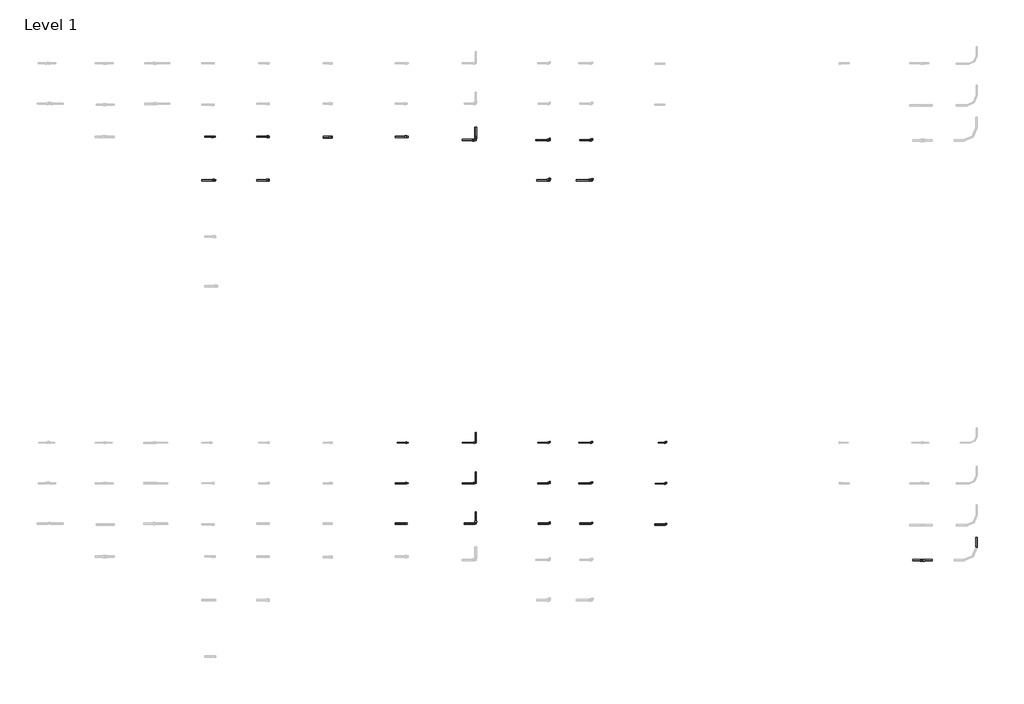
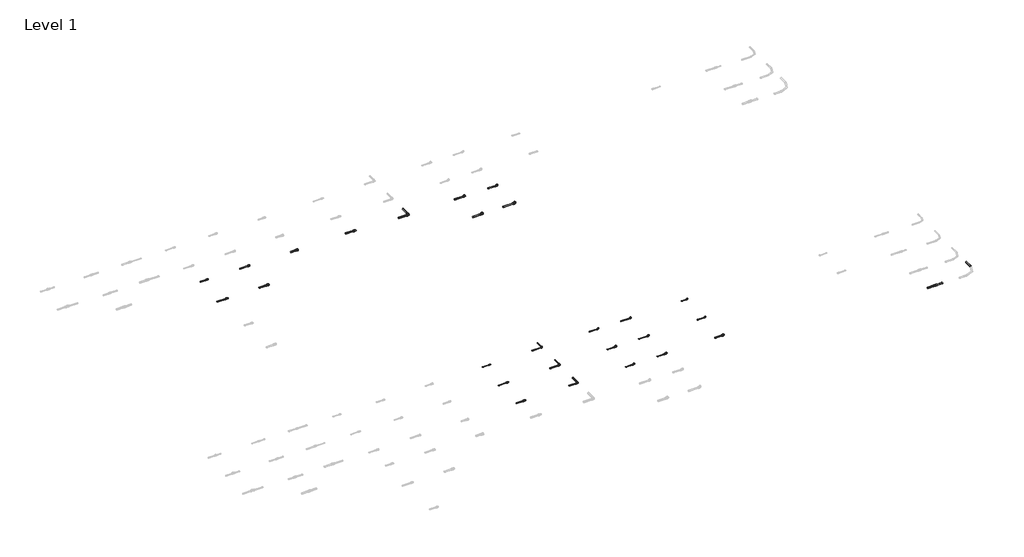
# One storey, part 9 of 16: 33 pipe segments, 28 pipe fittings.
"""IFC4 building model written with IfcOpenShell, lengths in millimetres."""

from ifc_helpers import new_model, si_unit, point, frame, frame_2d, origin, place, context, project, spatial, circle_curve, trimmed, segment, composite_curve, outline, extrude, transform, mapped, element, save
from components import pipe_fitting_5ed0d7cb, pipe_fitting_a2ce5f58, pipe_fitting_24cae873, pipe_fitting_792dd94b, pipe_fitting_a5f7744a, pipe_fitting_eea56ca5, pipe_fitting_715ab4bf, pipe_fitting_d7e847e2, pipe_fitting_2fdc1963, pipe_fitting_cb24982a, pipe_fitting_3031d961, pipe_fitting_5b5ff5cf, pipe_fitting_05bb6e73, pipe_fitting_d3274886, pipe_fitting_5bb2cb98, pipe_fitting_792aeb1b, pipe_fitting_2cdc80e6, pipe_fitting_a8fbe6ac, pipe_fitting_fe659845, pipe_fitting_164b9098, pipe_fitting_15655edc, pipe_fitting_beb2161e, pipe_fitting_76e4ea32, pipe_fitting_18fcccac, pipe_fitting_1e296f3b

model = new_model("IFC4")

# Units and contexts
model_context = context("Model", 3, world=origin())
ifc_project = project(units=[si_unit("LENGTHUNIT", "METRE", prefix="MILLI")], contexts=[model_context])

# Site, building, storey
site = spatial("IfcSite", under=ifc_project)
building = spatial("IfcBuilding", under=site)
storey = spatial("IfcBuildingStorey", under=building, Name="Level 1", Elevation=0.0)

# Pipe fittings
placement = place(None, origin())
pipe_fitting_shape = pipe_fitting_5ed0d7cb(model_context)
element("IfcPipeFitting", 1, ObjectType="FASTLOC_Adapter_RX+, with external thread : FSL A C external EX+ DE", at=placement, inside=storey, context=model_context, shape_type="MappedRepresentation", body=[
    mapped(pipe_fitting_shape, transform((37498.2332092, -239.0537829, 0.0), x_axis=(1.0, 0.0, 0.0), y_axis=(0.0, 1.0, 0.0), z_axis=(0.0, 0.0, 1.0))),
])
pipe_fitting_2_shape = pipe_fitting_a2ce5f58(model_context)
element("IfcPipeFitting", 2, ObjectType="FASTLOC_Adapter_RX+, with external thread : FSL A C external EX+ DE", at=placement, inside=storey, context=model_context, shape_type="MappedRepresentation", body=[
    mapped(pipe_fitting_2_shape, transform((37510.8952889, -1099.407392, 0.0), x_axis=(1.0, 0.0, 0.0), y_axis=(0.0, 1.0, 0.0), z_axis=(0.0, 0.0, 1.0))),
])
pipe_fitting_3_shape = pipe_fitting_24cae873(model_context)
element("IfcPipeFitting", 3, ObjectType="FASTLOC_Corner EX+ : FSL C EX+ DE", at=placement, inside=storey, context=model_context, shape_type="MappedRepresentation", body=[
    mapped(pipe_fitting_3_shape, transform((42675.3824015, -304.9640428, 0.0), x_axis=(1.0, 0.0, 0.0), y_axis=(0.0, 1.0, 0.0), z_axis=(0.0, 0.0, 1.0))),
])
pipe_fitting_4_shape = pipe_fitting_792dd94b(model_context)
element("IfcPipeFitting", 4, ObjectType="FASTLOC_Corner EX+ : FSL C EX+ AT", at=placement, inside=storey, context=model_context, shape_type="MappedRepresentation", body=[
    mapped(pipe_fitting_4_shape, transform((42675.3824015, -7087.6479967, 0.0), x_axis=(1.0, 0.0, 0.0), y_axis=(0.0, 1.0, 0.0), z_axis=(0.0, 0.0, 1.0))),
])
pipe_fitting_5_shape = pipe_fitting_a5f7744a(model_context)
element("IfcPipeFitting", 5, ObjectType="FASTLOC_Corner EX+ : FSL C EX+ AT", at=placement, inside=storey, context=model_context, shape_type="MappedRepresentation", body=[
    mapped(pipe_fitting_5_shape, transform((42675.3824015, -7887.6479967, 0.0), x_axis=(1.0, 0.0, 0.0), y_axis=(0.0, 1.0, 0.0), z_axis=(0.0, 0.0, 1.0))),
])
pipe_fitting_6_shape = pipe_fitting_eea56ca5(model_context)
element("IfcPipeFitting", 6, ObjectType="FASTLOC_Elbow with female thread EX+ : FSL A internal DE", at=placement, inside=storey, context=model_context, shape_type="MappedRepresentation", body=[
    mapped(pipe_fitting_6_shape, transform((44973.8113057, -304.9640428, 0.0), x_axis=(1.0, 0.0, 0.0), y_axis=(0.0, 1.0, 0.0), z_axis=(0.0, 0.0, 1.0))),
])
pipe_fitting_7_shape = pipe_fitting_715ab4bf(model_context)
element("IfcPipeFitting", 7, ObjectType="FASTLOC_Elbow with female thread EX+ : FSL A internal DE", at=placement, inside=storey, context=model_context, shape_type="MappedRepresentation", body=[
    mapped(pipe_fitting_7_shape, transform((44973.8113057, -1099.407392, 0.0), x_axis=(1.0, 0.0, 0.0), y_axis=(0.0, 1.0, 0.0), z_axis=(0.0, 0.0, 1.0))),
])
pipe_fitting_8_shape = pipe_fitting_d7e847e2(model_context)
element("IfcPipeFitting", 8, ObjectType="FASTLOC_Elbow with female thread EX+ : FSL A internal AT", at=placement, inside=storey, context=model_context, shape_type="MappedRepresentation", body=[
    mapped(pipe_fitting_8_shape, transform((44973.8113057, -7087.6479967, 0.0), x_axis=(1.0, 0.0, 0.0), y_axis=(0.0, 1.0, 0.0), z_axis=(0.0, 0.0, 1.0))),
])
pipe_fitting_9_shape = pipe_fitting_2fdc1963(model_context)
element("IfcPipeFitting", 9, ObjectType="FASTLOC_Elbow with female thread EX+ : FSL A internal AT", at=placement, inside=storey, context=model_context, shape_type="MappedRepresentation", body=[
    mapped(pipe_fitting_9_shape, transform((44973.8113057, -7887.6479967, 0.0), x_axis=(1.0, 0.0, 0.0), y_axis=(0.0, 1.0, 0.0), z_axis=(0.0, 0.0, 1.0))),
])
element("IfcPipeFitting", 10, ObjectType="FASTLOC_Elbow with female thread EX+ : FSL A internal AT", at=placement, inside=storey, context=model_context, shape_type="MappedRepresentation", body=[
    mapped(pipe_fitting_6_shape, transform((46435.3824015, -7906.354246, 0.0), x_axis=(1.0, 0.0, 0.0), y_axis=(0.0, 1.0, 0.0), z_axis=(0.0, 0.0, 1.0))),
])
pipe_fitting_10_shape = pipe_fitting_cb24982a(model_context)
element("IfcPipeFitting", 11, ObjectType="FASTLOC_Elbow with male thread EX+ : FSL A internal DE", at=placement, inside=storey, context=model_context, shape_type="MappedRepresentation", body=[
    mapped(pipe_fitting_10_shape, transform((44135.3824015, -304.9640428, 0.0), x_axis=(1.0, 0.0, 0.0), y_axis=(0.0, 1.0, 0.0), z_axis=(0.0, 0.0, 1.0))),
])
pipe_fitting_11_shape = pipe_fitting_3031d961(model_context)
element("IfcPipeFitting", 12, ObjectType="FASTLOC_Elbow with male thread EX+ : FSL A internal DE", at=placement, inside=storey, context=model_context, shape_type="MappedRepresentation", body=[
    mapped(pipe_fitting_11_shape, transform((44135.3824015, -1099.407392, 0.0), x_axis=(1.0, 0.0, 0.0), y_axis=(0.0, 1.0, 0.0), z_axis=(0.0, 0.0, 1.0))),
])
pipe_fitting_12_shape = pipe_fitting_5b5ff5cf(model_context)
element("IfcPipeFitting", 13, ObjectType="FASTLOC_Elbow with male thread EX+ : FSL A internal AT", at=placement, inside=storey, context=model_context, shape_type="MappedRepresentation", body=[
    mapped(pipe_fitting_12_shape, transform((44135.3824015, -6287.6479967, 0.0), x_axis=(1.0, 0.0, 0.0), y_axis=(0.0, 1.0, 0.0), z_axis=(0.0, 0.0, 1.0))),
])
pipe_fitting_13_shape = pipe_fitting_05bb6e73(model_context)
element("IfcPipeFitting", 14, ObjectType="FASTLOC_Elbow with male thread EX+ : FSL A internal AT", at=placement, inside=storey, context=model_context, shape_type="MappedRepresentation", body=[
    mapped(pipe_fitting_13_shape, transform((44135.3824015, -7887.6479967, 0.0), x_axis=(1.0, 0.0, 0.0), y_axis=(0.0, 1.0, 0.0), z_axis=(0.0, 0.0, 1.0))),
])
pipe_fitting_14_shape = pipe_fitting_d3274886(model_context)
element("IfcPipeFitting", 15, ObjectType="FASTLOC_Elbow with male thread EX+ : FSL A internal AT", at=placement, inside=storey, context=model_context, shape_type="MappedRepresentation", body=[
    mapped(pipe_fitting_14_shape, transform((44135.3824015, -7087.6479967, 0.0), x_axis=(1.0, 0.0, 0.0), y_axis=(0.0, 1.0, 0.0), z_axis=(0.0, 0.0, 1.0))),
])
pipe_fitting_15_shape = pipe_fitting_5bb2cb98(model_context)
element("IfcPipeFitting", 16, ObjectType="FASTLOC_Elbow with female thread EX+ : FSL A internal AT", at=placement, inside=storey, context=model_context, shape_type="MappedRepresentation", body=[
    mapped(pipe_fitting_15_shape, transform((44973.8113057, -6287.6479967, 0.0), x_axis=(1.0, 0.0, 0.0), y_axis=(0.0, 1.0, 0.0), z_axis=(0.0, 0.0, 1.0))),
])
element("IfcPipeFitting", 17, ObjectType="FASTLOC_Elbow with female thread EX+ : FSL A internal AT", at=placement, inside=storey, context=model_context, shape_type="MappedRepresentation", body=[
    mapped(pipe_fitting_15_shape, transform((46435.3824015, -6287.6479967, 0.0), x_axis=(1.0, 0.0, 0.0), y_axis=(0.0, 1.0, 0.0), z_axis=(0.0, 0.0, 1.0))),
])
element("IfcPipeFitting", 18, ObjectType="FASTLOC_Elbow with female thread EX+ : FSL A internal AT", at=placement, inside=storey, context=model_context, shape_type="MappedRepresentation", body=[
    mapped(pipe_fitting_15_shape, transform((46435.3824015, -7095.6479967, 0.0), x_axis=(1.0, 0.0, 0.0), y_axis=(0.0, 1.0, 0.0), z_axis=(0.0, 0.0, 1.0))),
])
pipe_fitting_16_shape = pipe_fitting_792aeb1b(model_context)
element("IfcPipeFitting", 19, ObjectType="FASTLOC_Corner EX+ : FSL C EX+ AT", at=placement, inside=storey, context=model_context, shape_type="MappedRepresentation", body=[
    mapped(pipe_fitting_16_shape, transform((42675.3824015, -6287.6479967, 0.0), x_axis=(1.0, 0.0, 0.0), y_axis=(0.0, 1.0, 0.0), z_axis=(0.0, 0.0, 1.0))),
])
pipe_fitting_17_shape = pipe_fitting_2cdc80e6(model_context)
element("IfcPipeFitting", 20, ObjectType="FASTLOC Copper press adapter RX+ : FSL RX+ AT", at=placement, inside=storey, context=model_context, shape_type="MappedRepresentation", body=[
    mapped(pipe_fitting_17_shape, transform((41315.3824015, -6287.6479967, 0.0), x_axis=(1.0, 0.0, 0.0), y_axis=(0.0, 1.0, 0.0), z_axis=(0.0, 0.0, 1.0))),
])
pipe_fitting_18_shape = pipe_fitting_a8fbe6ac(model_context)
element("IfcPipeFitting", 21, ObjectType="RAUTITAN_Sleeve PX : RTI S PX", at=placement, inside=storey, context=model_context, shape_type="MappedRepresentation", body=[
    mapped(pipe_fitting_18_shape, transform((51510.6241081, -8611.8142398, 13.7), x_axis=(1.0, 0.0, 0.0), y_axis=(0.0, 1.0, 0.0), z_axis=(0.0, 0.0, 1.0))),
])
pipe_fitting_19_shape = pipe_fitting_fe659845(model_context)
element("IfcPipeFitting", 22, ObjectType="FASTLOC Copper press adapter RX+ : FSL RX+ DE", at=placement, inside=storey, context=model_context, shape_type="MappedRepresentation", body=[
    mapped(pipe_fitting_19_shape, transform((41315.3824015, -239.0537829, 0.0), x_axis=(1.0, 0.0, 0.0), y_axis=(0.0, 1.0, 0.0), z_axis=(0.0, 0.0, 1.0))),
])
pipe_fitting_20_shape = pipe_fitting_164b9098(model_context)
element("IfcPipeFitting", 23, ObjectType="FASTLOC Copper press adapter RX+ : FSL RX+ AT", at=placement, inside=storey, context=model_context, shape_type="MappedRepresentation", body=[
    mapped(pipe_fitting_20_shape, transform((41315.3824015, -7087.6479967, 0.0), x_axis=(1.0, 0.0, 0.0), y_axis=(0.0, 1.0, 0.0), z_axis=(0.0, 0.0, 1.0))),
])
pipe_fitting_21_shape = pipe_fitting_15655edc(model_context)
element("IfcPipeFitting", 24, ObjectType="FASTLOC Copper press adapter RX+ : FSL RX+ AT", at=placement, inside=storey, context=model_context, shape_type="MappedRepresentation", body=[
    mapped(pipe_fitting_21_shape, transform((41295.3824015, -7887.6479967, 0.0), x_axis=(1.0, 0.0, 0.0), y_axis=(0.0, 1.0, 0.0), z_axis=(0.0, 0.0, 1.0))),
])
pipe_fitting_22_shape = pipe_fitting_beb2161e(model_context)
element("IfcPipeFitting", 25, ObjectType="FASTLOC_Adapter coupling EX+ : FSL TC EX+ AT", at=placement, inside=storey, context=model_context, shape_type="MappedRepresentation", body=[
    mapped(pipe_fitting_22_shape, transform((51491.3241081, -8611.8142398, 13.7), x_axis=(1.0, 0.0, 0.0), y_axis=(0.0, 1.0, 0.0), z_axis=(0.0, 0.0, 1.0))),
])
pipe_fitting_23_shape = pipe_fitting_76e4ea32(model_context)
element("IfcPipeFitting", 26, ObjectType="FASTLOC_Adapter with union nut EX+ : FSL A union nut EX+ DE", at=placement, inside=storey, context=model_context, shape_type="MappedRepresentation", body=[
    mapped(pipe_fitting_23_shape, transform((39818.3503777, -247.0537829, 0.0), x_axis=(1.0, 0.0, 0.0), y_axis=(0.0, 1.0, 0.0), z_axis=(0.0, 0.0, 1.0))),
])
pipe_fitting_24_shape = pipe_fitting_18fcccac(model_context)
element("IfcPipeFitting", 27, ObjectType="FASTLOC_Adapter_EX+, with internal thread : FSL A internal DE", at=placement, inside=storey, context=model_context, shape_type="MappedRepresentation", body=[
    mapped(pipe_fitting_24_shape, transform((38579.5143796, -239.0537829, 0.0), x_axis=(1.0, 0.0, 0.0), y_axis=(0.0, 1.0, 0.0), z_axis=(0.0, 0.0, 1.0))),
])
pipe_fitting_25_shape = pipe_fitting_1e296f3b(model_context)
element("IfcPipeFitting", 28, ObjectType="FASTLOC_Adapter_EX+, with internal thread : FSL A internal DE", at=placement, inside=storey, context=model_context, shape_type="MappedRepresentation", body=[
    mapped(pipe_fitting_25_shape, transform((38579.5143796, -1099.407392, 0.0), x_axis=(1.0, 0.0, 0.0), y_axis=(0.0, 1.0, 0.0), z_axis=(0.0, 0.0, 1.0))),
])

# Pipe segments
element("IfcPipeSegment", 29, ObjectType="FASTLOC EX+ ML DE coil", at=placement, inside=storey, context=model_context, shape_type="SweptSolid", body=[
    extrude(outline(composite_curve([segment(trimmed(circle_curve(frame_2d((-304.9640428, 0.0)), 12.5), [point((-292.4640428, 0.0))], [point((-304.9640428, -12.5))], False, "CARTESIAN"), True, "CONTINUOUS"), segment(trimmed(circle_curve(frame_2d((-304.9640428, 0.0)), 12.5), [point((-304.9640428, -12.5))], [point((-317.4640428, 0.0))], False, "CARTESIAN"), True, "CONTINUOUS"), segment(trimmed(circle_curve(frame_2d((-304.9640428, 0.0)), 12.5), [point((-317.4640428, 0.0))], [point((-304.9640428, 12.5))], False, "CARTESIAN"), True, "CONTINUOUS"), segment(trimmed(circle_curve(frame_2d((-304.9640428, 0.0)), 12.5), [point((-304.9640428, 12.5))], [point((-292.4640428, 0.0))], False, "CARTESIAN"), True, "CONTINUOUS")], self_intersect=False)), frame((44726.8113057, 0.0, 0.0), z_axis=(1.0, 0.0, 0.0), x_axis=(0.0, 1.0, 0.0)), (0.0, 0.0, 1.0), 220.0),
])
element("IfcPipeSegment", 30, ObjectType="FASTLOC EX+ ML DE coil", at=placement, inside=storey, context=model_context, shape_type="SweptSolid", body=[
    extrude(outline(composite_curve([segment(trimmed(circle_curve(frame_2d((-304.9640428, 0.0)), 12.5), [point((-292.4640428, 0.0))], [point((-304.9640428, -12.5))], False, "CARTESIAN"), True, "CONTINUOUS"), segment(trimmed(circle_curve(frame_2d((-304.9640428, 0.0)), 12.5), [point((-304.9640428, -12.5))], [point((-317.4640428, 0.0))], False, "CARTESIAN"), True, "CONTINUOUS"), segment(trimmed(circle_curve(frame_2d((-304.9640428, 0.0)), 12.5), [point((-317.4640428, 0.0))], [point((-304.9640428, 12.5))], False, "CARTESIAN"), True, "CONTINUOUS"), segment(trimmed(circle_curve(frame_2d((-304.9640428, 0.0)), 12.5), [point((-304.9640428, 12.5))], [point((-292.4640428, 0.0))], False, "CARTESIAN"), True, "CONTINUOUS")], self_intersect=False)), frame((43861.1824015, 0.0, 0.0), z_axis=(1.0, 0.0, 0.0), x_axis=(0.0, 1.0, 0.0)), (0.0, 0.0, 1.0), 250.0),
])
element("IfcPipeSegment", 31, ObjectType="FASTLOC EX+ ML DE coil", at=placement, inside=storey, context=model_context, shape_type="SweptSolid", body=[
    extrude(outline(composite_curve([segment(trimmed(circle_curve(frame_2d((-1099.407392, 0.0)), 16.0), [point((-1083.407392, 0.0))], [point((-1099.407392, -16.0))], False, "CARTESIAN"), True, "CONTINUOUS"), segment(trimmed(circle_curve(frame_2d((-1099.407392, 0.0)), 16.0), [point((-1099.407392, -16.0))], [point((-1115.407392, 0.0))], False, "CARTESIAN"), True, "CONTINUOUS"), segment(trimmed(circle_curve(frame_2d((-1099.407392, 0.0)), 16.0), [point((-1115.407392, 0.0))], [point((-1099.407392, 16.0))], False, "CARTESIAN"), True, "CONTINUOUS"), segment(trimmed(circle_curve(frame_2d((-1099.407392, 0.0)), 16.0), [point((-1099.407392, 16.0))], [point((-1083.407392, 0.0))], False, "CARTESIAN"), True, "CONTINUOUS")], self_intersect=False)), frame((43875.6824015, 0.0, 0.0), z_axis=(1.0, 0.0, 0.0), x_axis=(0.0, 1.0, 0.0)), (0.0, 0.0, 1.0), 230.0),
])
element("IfcPipeSegment", 32, ObjectType="FASTLOC EX+ ML DE coil", at=placement, inside=storey, context=model_context, shape_type="SweptSolid", body=[
    extrude(outline(composite_curve([segment(trimmed(circle_curve(frame_2d((-1099.407392, 0.0)), 16.0), [point((-1083.407392, 0.0))], [point((-1099.407392, -16.0))], False, "CARTESIAN"), True, "CONTINUOUS"), segment(trimmed(circle_curve(frame_2d((-1099.407392, 0.0)), 16.0), [point((-1099.407392, -16.0))], [point((-1115.407392, 0.0))], False, "CARTESIAN"), True, "CONTINUOUS"), segment(trimmed(circle_curve(frame_2d((-1099.407392, 0.0)), 16.0), [point((-1115.407392, 0.0))], [point((-1099.407392, 16.0))], False, "CARTESIAN"), True, "CONTINUOUS"), segment(trimmed(circle_curve(frame_2d((-1099.407392, 0.0)), 16.0), [point((-1099.407392, 16.0))], [point((-1083.407392, 0.0))], False, "CARTESIAN"), True, "CONTINUOUS")], self_intersect=False)), frame((44661.8113057, 0.0, 0.0), z_axis=(1.0, 0.0, 0.0), x_axis=(0.0, 1.0, 0.0)), (0.0, 0.0, 1.0), 280.0),
])
element("IfcPipeSegment", 33, ObjectType="FASTLOC EX+ ML DE coil", at=placement, inside=storey, context=model_context, shape_type="SweptSolid", body=[
    extrude(outline(composite_curve([segment(trimmed(circle_curve(frame_2d((0.0, 42675.3824015)), 16.0), [point((0.0, 42691.3824015))], [point((16.0, 42675.3824015))], False, "CARTESIAN"), True, "CONTINUOUS"), segment(trimmed(circle_curve(frame_2d((0.0, 42675.3824015)), 16.0), [point((16.0, 42675.3824015))], [point((0.0, 42659.3824015))], False, "CARTESIAN"), True, "CONTINUOUS"), segment(trimmed(circle_curve(frame_2d((0.0, 42675.3824015)), 16.0), [point((0.0, 42659.3824015))], [point((-16.0, 42675.3824015))], False, "CARTESIAN"), True, "CONTINUOUS"), segment(trimmed(circle_curve(frame_2d((0.0, 42675.3824015)), 16.0), [point((-16.0, 42675.3824015))], [point((0.0, 42691.3824015))], False, "CARTESIAN"), True, "CONTINUOUS")], self_intersect=False)), frame((0.0, -269.9640428, 0.0), z_axis=(0.0, 1.0, 0.0), x_axis=(0.0, 0.0, 1.0)), (0.0, 0.0, 1.0), 220.0),
])
element("IfcPipeSegment", 34, ObjectType="FASTLOC EX+ ML DE coil", at=placement, inside=storey, context=model_context, shape_type="SweptSolid", body=[
    extrude(outline(composite_curve([segment(trimmed(circle_curve(frame_2d((-304.9640428, 0.0)), 16.0), [point((-288.9640428, 0.0))], [point((-304.9640428, -16.0))], False, "CARTESIAN"), True, "CONTINUOUS"), segment(trimmed(circle_curve(frame_2d((-304.9640428, 0.0)), 16.0), [point((-304.9640428, -16.0))], [point((-320.9640428, 0.0))], False, "CARTESIAN"), True, "CONTINUOUS"), segment(trimmed(circle_curve(frame_2d((-304.9640428, 0.0)), 16.0), [point((-320.9640428, 0.0))], [point((-304.9640428, 16.0))], False, "CARTESIAN"), True, "CONTINUOUS"), segment(trimmed(circle_curve(frame_2d((-304.9640428, 0.0)), 16.0), [point((-304.9640428, 16.0))], [point((-288.9640428, 0.0))], False, "CARTESIAN"), True, "CONTINUOUS")], self_intersect=False)), frame((42413.2824015, 0.0, 0.0), z_axis=(1.0, 0.0, 0.0), x_axis=(0.0, 1.0, 0.0)), (0.0, 0.0, 1.0), 227.1),
])
element("IfcPipeSegment", 35, ObjectType="FASTLOC EX+ ML DE coil", at=placement, inside=storey, context=model_context, shape_type="SweptSolid", body=[
    extrude(outline(composite_curve([segment(trimmed(circle_curve(frame_2d((-239.0537829, 0.0)), 16.0), [point((-223.0537829, 0.0))], [point((-239.0537829, -16.0))], False, "CARTESIAN"), True, "CONTINUOUS"), segment(trimmed(circle_curve(frame_2d((-239.0537829, 0.0)), 16.0), [point((-239.0537829, -16.0))], [point((-255.0537829, 0.0))], False, "CARTESIAN"), True, "CONTINUOUS"), segment(trimmed(circle_curve(frame_2d((-239.0537829, 0.0)), 16.0), [point((-255.0537829, 0.0))], [point((-239.0537829, 16.0))], False, "CARTESIAN"), True, "CONTINUOUS"), segment(trimmed(circle_curve(frame_2d((-239.0537829, 0.0)), 16.0), [point((-239.0537829, 16.0))], [point((-223.0537829, 0.0))], False, "CARTESIAN"), True, "CONTINUOUS")], self_intersect=False)), frame((41082.2824015, 0.0, 0.0), z_axis=(1.0, 0.0, 0.0), x_axis=(0.0, 1.0, 0.0)), (0.0, 0.0, 1.0), 220.0),
])
element("IfcPipeSegment", 36, ObjectType="FASTLOC EX+ ML DE coil", at=placement, inside=storey, context=model_context, shape_type="SweptSolid", body=[
    extrude(outline(composite_curve([segment(trimmed(circle_curve(frame_2d((-247.0537829, 0.0)), 16.0), [point((-231.0537829, 0.0))], [point((-247.0537829, -16.0))], False, "CARTESIAN"), True, "CONTINUOUS"), segment(trimmed(circle_curve(frame_2d((-247.0537829, 0.0)), 16.0), [point((-247.0537829, -16.0))], [point((-263.0537829, 0.0))], False, "CARTESIAN"), True, "CONTINUOUS"), segment(trimmed(circle_curve(frame_2d((-247.0537829, 0.0)), 16.0), [point((-263.0537829, 0.0))], [point((-247.0537829, 16.0))], False, "CARTESIAN"), True, "CONTINUOUS"), segment(trimmed(circle_curve(frame_2d((-247.0537829, 0.0)), 16.0), [point((-247.0537829, 16.0))], [point((-231.0537829, 0.0))], False, "CARTESIAN"), True, "CONTINUOUS")], self_intersect=False)), frame((39659.3503777, 0.0, 0.0), z_axis=(1.0, 0.0, 0.0), x_axis=(0.0, 1.0, 0.0)), (0.0, 0.0, 1.0), 147.5),
])
element("IfcPipeSegment", 37, ObjectType="FASTLOC EX+ ML DE coil", at=placement, inside=storey, context=model_context, shape_type="SweptSolid", body=[
    extrude(outline(composite_curve([segment(trimmed(circle_curve(frame_2d((-239.0537829, 0.0)), 12.5), [point((-226.5537829, 0.0))], [point((-239.0537829, -12.5))], False, "CARTESIAN"), True, "CONTINUOUS"), segment(trimmed(circle_curve(frame_2d((-239.0537829, 0.0)), 12.5), [point((-239.0537829, -12.5))], [point((-251.5537829, 0.0))], False, "CARTESIAN"), True, "CONTINUOUS"), segment(trimmed(circle_curve(frame_2d((-239.0537829, 0.0)), 12.5), [point((-251.5537829, 0.0))], [point((-239.0537829, 12.5))], False, "CARTESIAN"), True, "CONTINUOUS"), segment(trimmed(circle_curve(frame_2d((-239.0537829, 0.0)), 12.5), [point((-239.0537829, 12.5))], [point((-226.5537829, 0.0))], False, "CARTESIAN"), True, "CONTINUOUS")], self_intersect=False)), frame((38346.6143796, 0.0, 0.0), z_axis=(1.0, 0.0, 0.0), x_axis=(0.0, 1.0, 0.0)), (0.0, 0.0, 1.0), 220.0),
])
element("IfcPipeSegment", 38, ObjectType="FASTLOC EX+ ML DE coil", at=placement, inside=storey, context=model_context, shape_type="SweptSolid", body=[
    extrude(outline(composite_curve([segment(trimmed(circle_curve(frame_2d((-1099.407392, 0.0)), 16.0), [point((-1083.407392, 0.0))], [point((-1099.407392, -16.0))], False, "CARTESIAN"), True, "CONTINUOUS"), segment(trimmed(circle_curve(frame_2d((-1099.407392, 0.0)), 16.0), [point((-1099.407392, -16.0))], [point((-1115.407392, 0.0))], False, "CARTESIAN"), True, "CONTINUOUS"), segment(trimmed(circle_curve(frame_2d((-1099.407392, 0.0)), 16.0), [point((-1115.407392, 0.0))], [point((-1099.407392, 16.0))], False, "CARTESIAN"), True, "CONTINUOUS"), segment(trimmed(circle_curve(frame_2d((-1099.407392, 0.0)), 16.0), [point((-1099.407392, 16.0))], [point((-1083.407392, 0.0))], False, "CARTESIAN"), True, "CONTINUOUS")], self_intersect=False)), frame((38346.6143796, 0.0, 0.0), z_axis=(1.0, 0.0, 0.0), x_axis=(0.0, 1.0, 0.0)), (0.0, 0.0, 1.0), 218.4),
])
element("IfcPipeSegment", 39, ObjectType="FASTLOC EX+ ML DE coil", at=placement, inside=storey, context=model_context, shape_type="SweptSolid", body=[
    extrude(outline(composite_curve([segment(trimmed(circle_curve(frame_2d((-1099.407392, 0.0)), 12.5), [point((-1086.907392, 0.0))], [point((-1099.407392, -12.5))], False, "CARTESIAN"), True, "CONTINUOUS"), segment(trimmed(circle_curve(frame_2d((-1099.407392, 0.0)), 12.5), [point((-1099.407392, -12.5))], [point((-1111.907392, 0.0))], False, "CARTESIAN"), True, "CONTINUOUS"), segment(trimmed(circle_curve(frame_2d((-1099.407392, 0.0)), 12.5), [point((-1111.907392, 0.0))], [point((-1099.407392, 12.5))], False, "CARTESIAN"), True, "CONTINUOUS"), segment(trimmed(circle_curve(frame_2d((-1099.407392, 0.0)), 12.5), [point((-1099.407392, 12.5))], [point((-1086.907392, 0.0))], False, "CARTESIAN"), True, "CONTINUOUS")], self_intersect=False)), frame((37261.4952889, 0.0, 0.0), z_axis=(1.0, 0.0, 0.0), x_axis=(0.0, 1.0, 0.0)), (0.0, 0.0, 1.0), 240.0),
])
element("IfcPipeSegment", 40, ObjectType="FASTLOC EX+ ML DE coil", at=placement, inside=storey, context=model_context, shape_type="SweptSolid", body=[
    extrude(outline(composite_curve([segment(trimmed(circle_curve(frame_2d((-239.0537829, 0.0)), 10.0), [point((-229.0537829, 0.0))], [point((-239.0537829, -10.0))], False, "CARTESIAN"), True, "CONTINUOUS"), segment(trimmed(circle_curve(frame_2d((-239.0537829, 0.0)), 10.0), [point((-239.0537829, -10.0))], [point((-249.0537829, 0.0))], False, "CARTESIAN"), True, "CONTINUOUS"), segment(trimmed(circle_curve(frame_2d((-239.0537829, 0.0)), 10.0), [point((-249.0537829, 0.0))], [point((-239.0537829, 10.0))], False, "CARTESIAN"), True, "CONTINUOUS"), segment(trimmed(circle_curve(frame_2d((-239.0537829, 0.0)), 10.0), [point((-239.0537829, 10.0))], [point((-229.0537829, 0.0))], False, "CARTESIAN"), True, "CONTINUOUS")], self_intersect=False)), frame((37326.5601208, 0.0, 0.0), z_axis=(1.0, 0.0, 0.0), x_axis=(0.0, 1.0, 0.0)), (0.0, 0.0, 1.0), 162.3730883),
])
element("IfcPipeSegment", 41, ObjectType="FASTLOC EX+ ML AT coil", at=placement, inside=storey, context=model_context, shape_type="SweptSolid", body=[
    extrude(outline(composite_curve([segment(trimmed(circle_curve(frame_2d((0.0, 52570.2040344)), 16.0), [point((0.0, 52586.2040344))], [point((16.0, 52570.2040344))], False, "CARTESIAN"), True, "CONTINUOUS"), segment(trimmed(circle_curve(frame_2d((0.0, 52570.2040344)), 16.0), [point((16.0, 52570.2040344))], [point((0.0, 52554.2040344))], False, "CARTESIAN"), True, "CONTINUOUS"), segment(trimmed(circle_curve(frame_2d((0.0, 52570.2040344)), 16.0), [point((0.0, 52554.2040344))], [point((-16.0, 52570.2040344))], False, "CARTESIAN"), True, "CONTINUOUS"), segment(trimmed(circle_curve(frame_2d((0.0, 52570.2040344)), 16.0), [point((-16.0, 52570.2040344))], [point((0.0, 52586.2040344))], False, "CARTESIAN"), True, "CONTINUOUS")], self_intersect=False)), frame((0.0, -8355.8142398, 0.0), z_axis=(0.0, 1.0, 0.0), x_axis=(0.0, 0.0, 1.0)), (0.0, 0.0, 1.0), 200.0),
])
element("IfcPipeSegment", 42, ObjectType="FASTLOC EX+ ML AT coil", at=placement, inside=storey, context=model_context, shape_type="SweptSolid", body=[
    extrude(outline(composite_curve([segment(trimmed(circle_curve(frame_2d((-8611.8142398, 13.7)), 16.0), [point((-8627.8142398, 13.7))], [point((-8611.8142398, 29.7))], False, "CARTESIAN"), True, "CONTINUOUS"), segment(trimmed(circle_curve(frame_2d((-8611.8142398, 13.7)), 16.0), [point((-8611.8142398, 29.7))], [point((-8595.8142398, 13.7))], False, "CARTESIAN"), True, "CONTINUOUS"), segment(trimmed(circle_curve(frame_2d((-8611.8142398, 13.7)), 16.0), [point((-8595.8142398, 13.7))], [point((-8611.8142398, -2.3))], False, "CARTESIAN"), True, "CONTINUOUS"), segment(trimmed(circle_curve(frame_2d((-8611.8142398, 13.7)), 16.0), [point((-8611.8142398, -2.3))], [point((-8627.8142398, 13.7))], False, "CARTESIAN"), True, "CONTINUOUS")], self_intersect=False)), frame((51510.6241081, 0.0, 0.0), z_axis=(1.0, 0.0, 0.0), x_axis=(0.0, 1.0, 0.0)), (0.0, 0.0, 1.0), 180.0),
])
element("IfcPipeSegment", 43, ObjectType="FASTLOC EX+ ML AT coil", at=placement, inside=storey, context=model_context, shape_type="SweptSolid", body=[
    extrude(outline(composite_curve([segment(trimmed(circle_curve(frame_2d((-8611.8142398, 13.7)), 16.0), [point((-8595.8142398, 13.7))], [point((-8611.8142398, -2.3))], False, "CARTESIAN"), True, "CONTINUOUS"), segment(trimmed(circle_curve(frame_2d((-8611.8142398, 13.7)), 16.0), [point((-8611.8142398, -2.3))], [point((-8627.8142398, 13.7))], False, "CARTESIAN"), True, "CONTINUOUS"), segment(trimmed(circle_curve(frame_2d((-8611.8142398, 13.7)), 16.0), [point((-8627.8142398, 13.7))], [point((-8611.8142398, 29.7))], False, "CARTESIAN"), True, "CONTINUOUS"), segment(trimmed(circle_curve(frame_2d((-8611.8142398, 13.7)), 16.0), [point((-8611.8142398, 29.7))], [point((-8595.8142398, 13.7))], False, "CARTESIAN"), True, "CONTINUOUS")], self_intersect=False)), frame((51305.8241081, 0.0, 0.0), z_axis=(1.0, 0.0, 0.0), x_axis=(0.0, 1.0, 0.0)), (0.0, 0.0, 1.0), 180.0),
])
element("IfcPipeSegment", 44, ObjectType="FASTLOC EX+ ML AT coil", at=placement, inside=storey, context=model_context, shape_type="SweptSolid", body=[
    extrude(outline(composite_curve([segment(trimmed(circle_curve(frame_2d((-6287.6479967, 0.0)), 8.0), [point((-6279.6479967, 0.0))], [point((-6287.6479967, -8.0))], False, "CARTESIAN"), True, "CONTINUOUS"), segment(trimmed(circle_curve(frame_2d((-6287.6479967, 0.0)), 8.0), [point((-6287.6479967, -8.0))], [point((-6295.6479967, 0.0))], False, "CARTESIAN"), True, "CONTINUOUS"), segment(trimmed(circle_curve(frame_2d((-6287.6479967, 0.0)), 8.0), [point((-6295.6479967, 0.0))], [point((-6287.6479967, 8.0))], False, "CARTESIAN"), True, "CONTINUOUS"), segment(trimmed(circle_curve(frame_2d((-6287.6479967, 0.0)), 8.0), [point((-6287.6479967, 8.0))], [point((-6279.6479967, 0.0))], False, "CARTESIAN"), True, "CONTINUOUS")], self_intersect=False)), frame((46282.8824015, 0.0, 0.0), z_axis=(1.0, 0.0, 0.0), x_axis=(0.0, 1.0, 0.0)), (0.0, 0.0, 1.0), 130.2),
])
element("IfcPipeSegment", 45, ObjectType="FASTLOC EX+ ML AT coil", at=placement, inside=storey, context=model_context, shape_type="SweptSolid", body=[
    extrude(outline(composite_curve([segment(trimmed(circle_curve(frame_2d((-7095.6479967, 0.0)), 8.0), [point((-7087.6479967, 0.0))], [point((-7095.6479967, -8.0))], False, "CARTESIAN"), True, "CONTINUOUS"), segment(trimmed(circle_curve(frame_2d((-7095.6479967, 0.0)), 8.0), [point((-7095.6479967, -8.0))], [point((-7103.6479967, 0.0))], False, "CARTESIAN"), True, "CONTINUOUS"), segment(trimmed(circle_curve(frame_2d((-7095.6479967, 0.0)), 8.0), [point((-7103.6479967, 0.0))], [point((-7095.6479967, 8.0))], False, "CARTESIAN"), True, "CONTINUOUS"), segment(trimmed(circle_curve(frame_2d((-7095.6479967, 0.0)), 8.0), [point((-7095.6479967, 8.0))], [point((-7087.6479967, 0.0))], False, "CARTESIAN"), True, "CONTINUOUS")], self_intersect=False)), frame((46222.8824015, 0.0, 0.0), z_axis=(1.0, 0.0, 0.0), x_axis=(0.0, 1.0, 0.0)), (0.0, 0.0, 1.0), 190.2),
])
element("IfcPipeSegment", 46, ObjectType="FASTLOC EX+ ML AT coil", at=placement, inside=storey, context=model_context, shape_type="SweptSolid", body=[
    extrude(outline(composite_curve([segment(trimmed(circle_curve(frame_2d((-7906.354246, 0.0)), 12.5), [point((-7893.854246, 0.0))], [point((-7906.354246, -12.5))], False, "CARTESIAN"), True, "CONTINUOUS"), segment(trimmed(circle_curve(frame_2d((-7906.354246, 0.0)), 12.5), [point((-7906.354246, -12.5))], [point((-7918.854246, 0.0))], False, "CARTESIAN"), True, "CONTINUOUS"), segment(trimmed(circle_curve(frame_2d((-7906.354246, 0.0)), 12.5), [point((-7918.854246, 0.0))], [point((-7906.354246, 12.5))], False, "CARTESIAN"), True, "CONTINUOUS"), segment(trimmed(circle_curve(frame_2d((-7906.354246, 0.0)), 12.5), [point((-7906.354246, 12.5))], [point((-7893.854246, 0.0))], False, "CARTESIAN"), True, "CONTINUOUS")], self_intersect=False)), frame((46208.4824015, 0.0, 0.0), z_axis=(1.0, 0.0, 0.0), x_axis=(0.0, 1.0, 0.0)), (0.0, 0.0, 1.0), 199.9),
])
element("IfcPipeSegment", 47, ObjectType="FASTLOC EX+ ML AT coil", at=placement, inside=storey, context=model_context, shape_type="SweptSolid", body=[
    extrude(outline(composite_curve([segment(trimmed(circle_curve(frame_2d((-7887.6479967, 0.0)), 10.0), [point((-7877.6479967, 0.0))], [point((-7887.6479967, -10.0))], False, "CARTESIAN"), True, "CONTINUOUS"), segment(trimmed(circle_curve(frame_2d((-7887.6479967, 0.0)), 10.0), [point((-7887.6479967, -10.0))], [point((-7897.6479967, 0.0))], False, "CARTESIAN"), True, "CONTINUOUS"), segment(trimmed(circle_curve(frame_2d((-7887.6479967, 0.0)), 10.0), [point((-7897.6479967, 0.0))], [point((-7887.6479967, 10.0))], False, "CARTESIAN"), True, "CONTINUOUS"), segment(trimmed(circle_curve(frame_2d((-7887.6479967, 0.0)), 10.0), [point((-7887.6479967, 10.0))], [point((-7877.6479967, 0.0))], False, "CARTESIAN"), True, "CONTINUOUS")], self_intersect=False)), frame((44726.8113057, 0.0, 0.0), z_axis=(1.0, 0.0, 0.0), x_axis=(0.0, 1.0, 0.0)), (0.0, 0.0, 1.0), 221.0),
])
element("IfcPipeSegment", 48, ObjectType="FASTLOC EX+ ML AT coil", at=placement, inside=storey, context=model_context, shape_type="SweptSolid", body=[
    extrude(outline(composite_curve([segment(trimmed(circle_curve(frame_2d((-7087.6479967, 0.0)), 10.0), [point((-7077.6479967, 0.0))], [point((-7087.6479967, -10.0))], False, "CARTESIAN"), True, "CONTINUOUS"), segment(trimmed(circle_curve(frame_2d((-7087.6479967, 0.0)), 10.0), [point((-7087.6479967, -10.0))], [point((-7097.6479967, 0.0))], False, "CARTESIAN"), True, "CONTINUOUS"), segment(trimmed(circle_curve(frame_2d((-7087.6479967, 0.0)), 10.0), [point((-7097.6479967, 0.0))], [point((-7087.6479967, 10.0))], False, "CARTESIAN"), True, "CONTINUOUS"), segment(trimmed(circle_curve(frame_2d((-7087.6479967, 0.0)), 10.0), [point((-7087.6479967, 10.0))], [point((-7077.6479967, 0.0))], False, "CARTESIAN"), True, "CONTINUOUS")], self_intersect=False)), frame((44711.1113057, 0.0, 0.0), z_axis=(1.0, 0.0, 0.0), x_axis=(0.0, 1.0, 0.0)), (0.0, 0.0, 1.0), 240.0),
])
element("IfcPipeSegment", 49, ObjectType="FASTLOC EX+ ML AT coil", at=placement, inside=storey, context=model_context, shape_type="SweptSolid", body=[
    extrude(outline(composite_curve([segment(trimmed(circle_curve(frame_2d((-6287.6479967, 0.0)), 8.0), [point((-6279.6479967, 0.0))], [point((-6287.6479967, -8.0))], False, "CARTESIAN"), True, "CONTINUOUS"), segment(trimmed(circle_curve(frame_2d((-6287.6479967, 0.0)), 8.0), [point((-6287.6479967, -8.0))], [point((-6295.6479967, 0.0))], False, "CARTESIAN"), True, "CONTINUOUS"), segment(trimmed(circle_curve(frame_2d((-6287.6479967, 0.0)), 8.0), [point((-6295.6479967, 0.0))], [point((-6287.6479967, 8.0))], False, "CARTESIAN"), True, "CONTINUOUS"), segment(trimmed(circle_curve(frame_2d((-6287.6479967, 0.0)), 8.0), [point((-6287.6479967, 8.0))], [point((-6279.6479967, 0.0))], False, "CARTESIAN"), True, "CONTINUOUS")], self_intersect=False)), frame((44711.1113057, 0.0, 0.0), z_axis=(1.0, 0.0, 0.0), x_axis=(0.0, 1.0, 0.0)), (0.0, 0.0, 1.0), 240.4),
])
element("IfcPipeSegment", 50, ObjectType="FASTLOC EX+ ML AT coil", at=placement, inside=storey, context=model_context, shape_type="SweptSolid", body=[
    extrude(outline(composite_curve([segment(trimmed(circle_curve(frame_2d((-6287.6479967, 0.0)), 8.0), [point((-6279.6479967, 0.0))], [point((-6287.6479967, -8.0))], False, "CARTESIAN"), True, "CONTINUOUS"), segment(trimmed(circle_curve(frame_2d((-6287.6479967, 0.0)), 8.0), [point((-6287.6479967, -8.0))], [point((-6295.6479967, 0.0))], False, "CARTESIAN"), True, "CONTINUOUS"), segment(trimmed(circle_curve(frame_2d((-6287.6479967, 0.0)), 8.0), [point((-6295.6479967, 0.0))], [point((-6287.6479967, 8.0))], False, "CARTESIAN"), True, "CONTINUOUS"), segment(trimmed(circle_curve(frame_2d((-6287.6479967, 0.0)), 8.0), [point((-6287.6479967, 8.0))], [point((-6279.6479967, 0.0))], False, "CARTESIAN"), True, "CONTINUOUS")], self_intersect=False)), frame((43895.5824015, 0.0, 0.0), z_axis=(1.0, 0.0, 0.0), x_axis=(0.0, 1.0, 0.0)), (0.0, 0.0, 1.0), 220.0),
])
element("IfcPipeSegment", 51, ObjectType="FASTLOC EX+ ML AT coil", at=placement, inside=storey, context=model_context, shape_type="SweptSolid", body=[
    extrude(outline(composite_curve([segment(trimmed(circle_curve(frame_2d((-7087.6479967, 0.0)), 10.0), [point((-7077.6479967, 0.0))], [point((-7087.6479967, -10.0))], False, "CARTESIAN"), True, "CONTINUOUS"), segment(trimmed(circle_curve(frame_2d((-7087.6479967, 0.0)), 10.0), [point((-7087.6479967, -10.0))], [point((-7097.6479967, 0.0))], False, "CARTESIAN"), True, "CONTINUOUS"), segment(trimmed(circle_curve(frame_2d((-7087.6479967, 0.0)), 10.0), [point((-7097.6479967, 0.0))], [point((-7087.6479967, 10.0))], False, "CARTESIAN"), True, "CONTINUOUS"), segment(trimmed(circle_curve(frame_2d((-7087.6479967, 0.0)), 10.0), [point((-7087.6479967, 10.0))], [point((-7077.6479967, 0.0))], False, "CARTESIAN"), True, "CONTINUOUS")], self_intersect=False)), frame((43895.5824015, 0.0, 0.0), z_axis=(1.0, 0.0, 0.0), x_axis=(0.0, 1.0, 0.0)), (0.0, 0.0, 1.0), 219.6),
])
element("IfcPipeSegment", 52, ObjectType="FASTLOC EX+ ML AT coil", at=placement, inside=storey, context=model_context, shape_type="SweptSolid", body=[
    extrude(outline(composite_curve([segment(trimmed(circle_curve(frame_2d((-7887.6479967, 0.0)), 10.0), [point((-7877.6479967, 0.0))], [point((-7887.6479967, -10.0))], False, "CARTESIAN"), True, "CONTINUOUS"), segment(trimmed(circle_curve(frame_2d((-7887.6479967, 0.0)), 10.0), [point((-7887.6479967, -10.0))], [point((-7897.6479967, 0.0))], False, "CARTESIAN"), True, "CONTINUOUS"), segment(trimmed(circle_curve(frame_2d((-7887.6479967, 0.0)), 10.0), [point((-7897.6479967, 0.0))], [point((-7887.6479967, 10.0))], False, "CARTESIAN"), True, "CONTINUOUS"), segment(trimmed(circle_curve(frame_2d((-7887.6479967, 0.0)), 10.0), [point((-7887.6479967, 10.0))], [point((-7877.6479967, 0.0))], False, "CARTESIAN"), True, "CONTINUOUS")], self_intersect=False)), frame((43912.1824015, 0.0, 0.0), z_axis=(1.0, 0.0, 0.0), x_axis=(0.0, 1.0, 0.0)), (0.0, 0.0, 1.0), 200.0),
])
element("IfcPipeSegment", 53, ObjectType="FASTLOC EX+ ML AT coil", at=placement, inside=storey, context=model_context, shape_type="SweptSolid", body=[
    extrude(outline(composite_curve([segment(trimmed(circle_curve(frame_2d((-6287.6479967, 0.0)), 8.0), [point((-6279.6479967, 0.0))], [point((-6287.6479967, -8.0))], False, "CARTESIAN"), True, "CONTINUOUS"), segment(trimmed(circle_curve(frame_2d((-6287.6479967, 0.0)), 8.0), [point((-6287.6479967, -8.0))], [point((-6295.6479967, 0.0))], False, "CARTESIAN"), True, "CONTINUOUS"), segment(trimmed(circle_curve(frame_2d((-6287.6479967, 0.0)), 8.0), [point((-6295.6479967, 0.0))], [point((-6287.6479967, 8.0))], False, "CARTESIAN"), True, "CONTINUOUS"), segment(trimmed(circle_curve(frame_2d((-6287.6479967, 0.0)), 8.0), [point((-6287.6479967, 8.0))], [point((-6279.6479967, 0.0))], False, "CARTESIAN"), True, "CONTINUOUS")], self_intersect=False)), frame((42413.2824015, 0.0, 0.0), z_axis=(1.0, 0.0, 0.0), x_axis=(0.0, 1.0, 0.0)), (0.0, 0.0, 1.0), 240.0),
])
element("IfcPipeSegment", 54, ObjectType="FASTLOC EX+ ML AT coil", at=placement, inside=storey, context=model_context, shape_type="SweptSolid", body=[
    extrude(outline(composite_curve([segment(trimmed(circle_curve(frame_2d((-7087.6479967, 0.0)), 10.0), [point((-7077.6479967, 0.0))], [point((-7087.6479967, -10.0))], False, "CARTESIAN"), True, "CONTINUOUS"), segment(trimmed(circle_curve(frame_2d((-7087.6479967, 0.0)), 10.0), [point((-7087.6479967, -10.0))], [point((-7097.6479967, 0.0))], False, "CARTESIAN"), True, "CONTINUOUS"), segment(trimmed(circle_curve(frame_2d((-7087.6479967, 0.0)), 10.0), [point((-7097.6479967, 0.0))], [point((-7087.6479967, 10.0))], False, "CARTESIAN"), True, "CONTINUOUS"), segment(trimmed(circle_curve(frame_2d((-7087.6479967, 0.0)), 10.0), [point((-7087.6479967, 10.0))], [point((-7077.6479967, 0.0))], False, "CARTESIAN"), True, "CONTINUOUS")], self_intersect=False)), frame((42413.2824015, 0.0, 0.0), z_axis=(1.0, 0.0, 0.0), x_axis=(0.0, 1.0, 0.0)), (0.0, 0.0, 1.0), 237.5),
])
element("IfcPipeSegment", 55, ObjectType="FASTLOC EX+ ML AT coil", at=placement, inside=storey, context=model_context, shape_type="SweptSolid", body=[
    extrude(outline(composite_curve([segment(trimmed(circle_curve(frame_2d((0.0, 42675.3824015)), 10.0), [point((0.0, 42685.3824015))], [point((10.0, 42675.3824015))], False, "CARTESIAN"), True, "CONTINUOUS"), segment(trimmed(circle_curve(frame_2d((0.0, 42675.3824015)), 10.0), [point((10.0, 42675.3824015))], [point((0.0, 42665.3824015))], False, "CARTESIAN"), True, "CONTINUOUS"), segment(trimmed(circle_curve(frame_2d((0.0, 42675.3824015)), 10.0), [point((0.0, 42665.3824015))], [point((-10.0, 42675.3824015))], False, "CARTESIAN"), True, "CONTINUOUS"), segment(trimmed(circle_curve(frame_2d((0.0, 42675.3824015)), 10.0), [point((-10.0, 42675.3824015))], [point((0.0, 42685.3824015))], False, "CARTESIAN"), True, "CONTINUOUS")], self_intersect=False)), frame((0.0, -7063.0479967, 0.0), z_axis=(0.0, 1.0, 0.0), x_axis=(0.0, 0.0, 1.0)), (0.0, 0.0, 1.0), 200.0),
])
element("IfcPipeSegment", 56, ObjectType="FASTLOC EX+ ML AT coil", at=placement, inside=storey, context=model_context, shape_type="SweptSolid", body=[
    extrude(outline(composite_curve([segment(trimmed(circle_curve(frame_2d((0.0, 42675.3824015)), 8.0), [point((0.0, 42683.3824015))], [point((8.0, 42675.3824015))], False, "CARTESIAN"), True, "CONTINUOUS"), segment(trimmed(circle_curve(frame_2d((0.0, 42675.3824015)), 8.0), [point((8.0, 42675.3824015))], [point((0.0, 42667.3824015))], False, "CARTESIAN"), True, "CONTINUOUS"), segment(trimmed(circle_curve(frame_2d((0.0, 42675.3824015)), 8.0), [point((0.0, 42667.3824015))], [point((-8.0, 42675.3824015))], False, "CARTESIAN"), True, "CONTINUOUS"), segment(trimmed(circle_curve(frame_2d((0.0, 42675.3824015)), 8.0), [point((-8.0, 42675.3824015))], [point((0.0, 42683.3824015))], False, "CARTESIAN"), True, "CONTINUOUS")], self_intersect=False)), frame((0.0, -6265.5479967, 0.0), z_axis=(0.0, 1.0, 0.0), x_axis=(0.0, 0.0, 1.0)), (0.0, 0.0, 1.0), 180.0),
])
element("IfcPipeSegment", 57, ObjectType="FASTLOC EX+ ML AT coil", at=placement, inside=storey, context=model_context, shape_type="SweptSolid", body=[
    extrude(outline(composite_curve([segment(trimmed(circle_curve(frame_2d((0.0, 42675.3824015)), 12.5), [point((0.0, 42687.8824015))], [point((12.5, 42675.3824015))], False, "CARTESIAN"), True, "CONTINUOUS"), segment(trimmed(circle_curve(frame_2d((0.0, 42675.3824015)), 12.5), [point((12.5, 42675.3824015))], [point((0.0, 42662.8824015))], False, "CARTESIAN"), True, "CONTINUOUS"), segment(trimmed(circle_curve(frame_2d((0.0, 42675.3824015)), 12.5), [point((0.0, 42662.8824015))], [point((-12.5, 42675.3824015))], False, "CARTESIAN"), True, "CONTINUOUS"), segment(trimmed(circle_curve(frame_2d((0.0, 42675.3824015)), 12.5), [point((-12.5, 42675.3824015))], [point((0.0, 42687.8824015))], False, "CARTESIAN"), True, "CONTINUOUS")], self_intersect=False)), frame((0.0, -7858.6479967, 0.0), z_axis=(0.0, 1.0, 0.0), x_axis=(0.0, 0.0, 1.0)), (0.0, 0.0, 1.0), 200.0),
])
element("IfcPipeSegment", 58, ObjectType="FASTLOC EX+ ML AT coil", at=placement, inside=storey, context=model_context, shape_type="SweptSolid", body=[
    extrude(outline(composite_curve([segment(trimmed(circle_curve(frame_2d((-7887.6479967, 0.0)), 12.5), [point((-7875.1479967, 0.0))], [point((-7887.6479967, -12.5))], False, "CARTESIAN"), True, "CONTINUOUS"), segment(trimmed(circle_curve(frame_2d((-7887.6479967, 0.0)), 12.5), [point((-7887.6479967, -12.5))], [point((-7900.1479967, 0.0))], False, "CARTESIAN"), True, "CONTINUOUS"), segment(trimmed(circle_curve(frame_2d((-7887.6479967, 0.0)), 12.5), [point((-7900.1479967, 0.0))], [point((-7887.6479967, 12.5))], False, "CARTESIAN"), True, "CONTINUOUS"), segment(trimmed(circle_curve(frame_2d((-7887.6479967, 0.0)), 12.5), [point((-7887.6479967, 12.5))], [point((-7875.1479967, 0.0))], False, "CARTESIAN"), True, "CONTINUOUS")], self_intersect=False)), frame((42446.3824015, 0.0, 0.0), z_axis=(1.0, 0.0, 0.0), x_axis=(0.0, 1.0, 0.0)), (0.0, 0.0, 1.0), 200.0),
])
element("IfcPipeSegment", 59, ObjectType="FASTLOC EX+ ML AT coil", at=placement, inside=storey, context=model_context, shape_type="SweptSolid", body=[
    extrude(outline(composite_curve([segment(trimmed(circle_curve(frame_2d((-7887.6479967, 0.0)), 12.5), [point((-7875.1479967, 0.0))], [point((-7887.6479967, -12.5))], False, "CARTESIAN"), True, "CONTINUOUS"), segment(trimmed(circle_curve(frame_2d((-7887.6479967, 0.0)), 12.5), [point((-7887.6479967, -12.5))], [point((-7900.1479967, 0.0))], False, "CARTESIAN"), True, "CONTINUOUS"), segment(trimmed(circle_curve(frame_2d((-7887.6479967, 0.0)), 12.5), [point((-7900.1479967, 0.0))], [point((-7887.6479967, 12.5))], False, "CARTESIAN"), True, "CONTINUOUS"), segment(trimmed(circle_curve(frame_2d((-7887.6479967, 0.0)), 12.5), [point((-7887.6479967, 12.5))], [point((-7875.1479967, 0.0))], False, "CARTESIAN"), True, "CONTINUOUS")], self_intersect=False)), frame((41082.2824015, 0.0, 0.0), z_axis=(1.0, 0.0, 0.0), x_axis=(0.0, 1.0, 0.0)), (0.0, 0.0, 1.0), 202.5),
])
element("IfcPipeSegment", 60, ObjectType="FASTLOC EX+ ML AT coil", at=placement, inside=storey, context=model_context, shape_type="SweptSolid", body=[
    extrude(outline(composite_curve([segment(trimmed(circle_curve(frame_2d((-7087.6479967, 0.0)), 10.0), [point((-7077.6479967, 0.0))], [point((-7087.6479967, -10.0))], False, "CARTESIAN"), True, "CONTINUOUS"), segment(trimmed(circle_curve(frame_2d((-7087.6479967, 0.0)), 10.0), [point((-7087.6479967, -10.0))], [point((-7097.6479967, 0.0))], False, "CARTESIAN"), True, "CONTINUOUS"), segment(trimmed(circle_curve(frame_2d((-7087.6479967, 0.0)), 10.0), [point((-7097.6479967, 0.0))], [point((-7087.6479967, 10.0))], False, "CARTESIAN"), True, "CONTINUOUS"), segment(trimmed(circle_curve(frame_2d((-7087.6479967, 0.0)), 10.0), [point((-7087.6479967, 10.0))], [point((-7077.6479967, 0.0))], False, "CARTESIAN"), True, "CONTINUOUS")], self_intersect=False)), frame((41082.2824015, 0.0, 0.0), z_axis=(1.0, 0.0, 0.0), x_axis=(0.0, 1.0, 0.0)), (0.0, 0.0, 1.0), 223.9),
])
element("IfcPipeSegment", 61, ObjectType="FASTLOC EX+ ML AT coil", at=placement, inside=storey, context=model_context, shape_type="SweptSolid", body=[
    extrude(outline(composite_curve([segment(trimmed(circle_curve(frame_2d((-6287.6479967, 0.0)), 8.0), [point((-6279.6479967, 0.0))], [point((-6287.6479967, -8.0))], False, "CARTESIAN"), True, "CONTINUOUS"), segment(trimmed(circle_curve(frame_2d((-6287.6479967, 0.0)), 8.0), [point((-6287.6479967, -8.0))], [point((-6295.6479967, 0.0))], False, "CARTESIAN"), True, "CONTINUOUS"), segment(trimmed(circle_curve(frame_2d((-6287.6479967, 0.0)), 8.0), [point((-6295.6479967, 0.0))], [point((-6287.6479967, 8.0))], False, "CARTESIAN"), True, "CONTINUOUS"), segment(trimmed(circle_curve(frame_2d((-6287.6479967, 0.0)), 8.0), [point((-6287.6479967, 8.0))], [point((-6279.6479967, 0.0))], False, "CARTESIAN"), True, "CONTINUOUS")], self_intersect=False)), frame((41126.4824015, 0.0, 0.0), z_axis=(1.0, 0.0, 0.0), x_axis=(0.0, 1.0, 0.0)), (0.0, 0.0, 1.0), 180.0),
])

save(model, "model.ifc")
